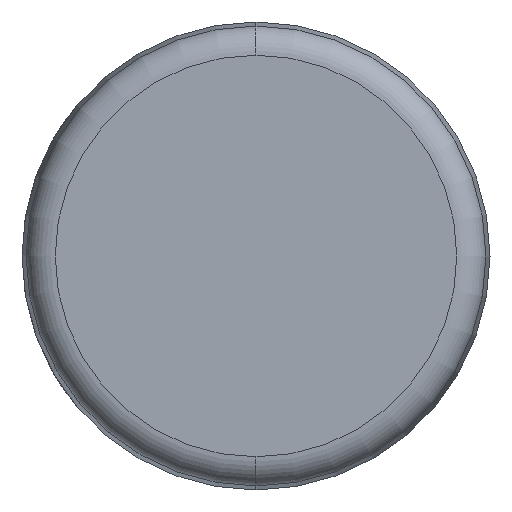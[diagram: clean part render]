
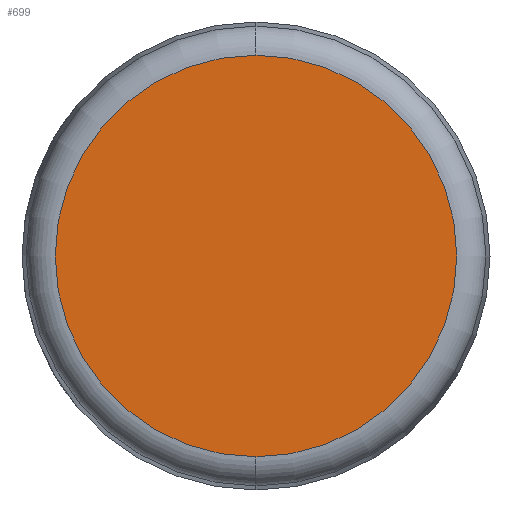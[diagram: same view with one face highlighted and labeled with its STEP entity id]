
A CAD part, left-side view. The second image highlights one B-rep face of the part: STEP entity #699.
In plain terms, the highlighted planar face has unit normal (-1, 0, 0).
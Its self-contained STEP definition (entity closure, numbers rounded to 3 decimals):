
#39 = CARTESIAN_POINT ( 'NONE',  ( 0., 0., -13.73 ) ) ;
#47 = VERTEX_POINT ( 'NONE', #363 ) ;
#67 = ORIENTED_EDGE ( 'NONE', *, *, #142, .T. ) ;
#74 = DIRECTION ( 'NONE',  ( 0., 0., -1. ) ) ;
#78 = PLANE ( 'NONE',  #462 ) ;
#79 = AXIS2_PLACEMENT_3D ( 'NONE', #95, #93, #89 ) ;
#89 = DIRECTION ( 'NONE',  ( 0., 0., -1. ) ) ;
#93 = DIRECTION ( 'NONE',  ( -1., 0., 0. ) ) ;
#95 = CARTESIAN_POINT ( 'NONE',  ( 0., 0., 0. ) ) ;
#122 = CARTESIAN_POINT ( 'NONE',  ( 0., 0., 0. ) ) ;
#142 = EDGE_CURVE ( 'NONE', #47, #420, #342, .T. ) ;
#164 = FACE_OUTER_BOUND ( 'NONE', #347, .T. ) ;
#342 = CIRCLE ( 'NONE', #381, 13.73 ) ;
#347 = EDGE_LOOP ( 'NONE', ( #377, #67 ) ) ;
#357 = CIRCLE ( 'NONE', #79, 13.73 ) ;
#363 = CARTESIAN_POINT ( 'NONE',  ( 0., 0., 13.73 ) ) ;
#377 = ORIENTED_EDGE ( 'NONE', *, *, #669, .T. ) ;
#381 = AXIS2_PLACEMENT_3D ( 'NONE', #718, #610, #445 ) ;
#420 = VERTEX_POINT ( 'NONE', #39 ) ;
#445 = DIRECTION ( 'NONE',  ( 0., 0., -1. ) ) ;
#462 = AXIS2_PLACEMENT_3D ( 'NONE', #122, #743, #74 ) ;
#610 = DIRECTION ( 'NONE',  ( -1., 0., 0. ) ) ;
#669 = EDGE_CURVE ( 'NONE', #420, #47, #357, .T. ) ;
#699 = ADVANCED_FACE ( 'NONE', ( #164 ), #78, .F. ) ;
#718 = CARTESIAN_POINT ( 'NONE',  ( 0., 0., 0. ) ) ;
#743 = DIRECTION ( 'NONE',  ( 1., 0., 0. ) ) ;
